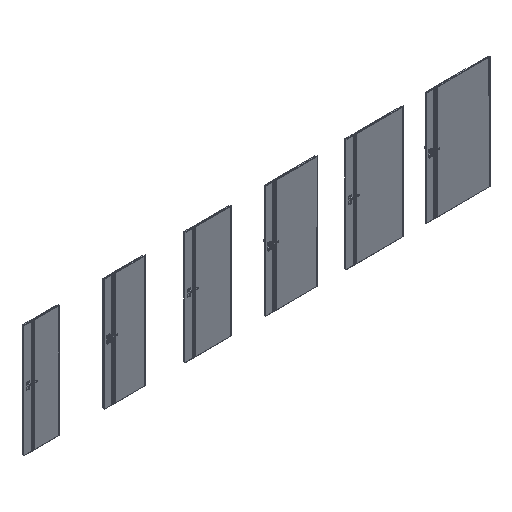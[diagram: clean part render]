
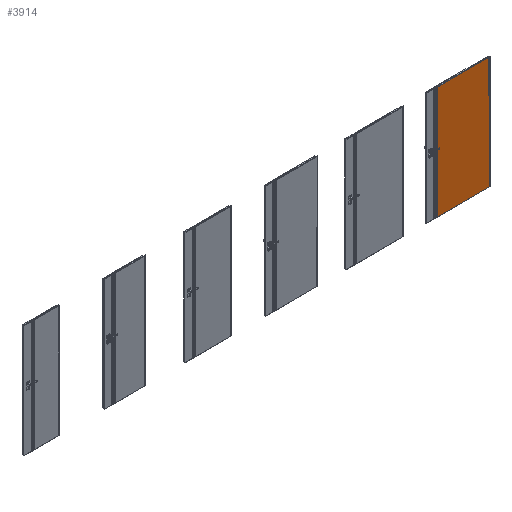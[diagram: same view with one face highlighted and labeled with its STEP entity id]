
A CAD part, isometric view. The second image highlights one B-rep face of the part: STEP entity #3914.
In plain terms, the highlighted planar face has unit normal (0, -1, 0).
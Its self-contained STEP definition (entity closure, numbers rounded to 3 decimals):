
#2504=FACE_OUTER_BOUND('',#7076,.T.);
#3914=ADVANCED_FACE('',(#2504),#4990,.F.);
#4990=PLANE('',#24803);
#7076=EDGE_LOOP('',(#11847,#11848,#11849,#11850));
#11847=ORIENTED_EDGE('',*,*,#18163,.F.);
#11848=ORIENTED_EDGE('',*,*,#18164,.T.);
#11849=ORIENTED_EDGE('',*,*,#18165,.F.);
#11850=ORIENTED_EDGE('',*,*,#18159,.F.);
#15381=VERTEX_POINT('',#40893);
#15382=VERTEX_POINT('',#40895);
#15385=VERTEX_POINT('',#40903);
#15386=VERTEX_POINT('',#40905);
#18159=EDGE_CURVE('',#15381,#15382,#20757,.T.);
#18163=EDGE_CURVE('',#15385,#15381,#20761,.T.);
#18164=EDGE_CURVE('',#15385,#15386,#20762,.T.);
#18165=EDGE_CURVE('',#15382,#15386,#20763,.T.);
#20757=LINE('',#40894,#22905);
#20761=LINE('',#40902,#22909);
#20762=LINE('',#40904,#22910);
#20763=LINE('',#40906,#22911);
#22905=VECTOR('',#29500,1.);
#22909=VECTOR('',#29506,1.);
#22910=VECTOR('',#29507,1.);
#22911=VECTOR('',#29508,1.);
#24803=AXIS2_PLACEMENT_3D('',#40907,#29509,#29510);
#29500=DIRECTION('',(1.,0.,0.));
#29506=DIRECTION('',(0.,0.,1.));
#29507=DIRECTION('',(1.,0.,0.));
#29508=DIRECTION('',(0.,0.,-1.));
#29509=DIRECTION('',(0.,1.,0.));
#29510=DIRECTION('',(-1.,0.,0.));
#40893=CARTESIAN_POINT('',(7118.,-39.3,2030.));
#40894=CARTESIAN_POINT('',(7178.,-39.3,2030.));
#40895=CARTESIAN_POINT('',(8072.,-39.3,2030.));
#40902=CARTESIAN_POINT('',(7118.,-39.3,2030.));
#40903=CARTESIAN_POINT('',(7118.,-39.3,2.));
#40904=CARTESIAN_POINT('',(7178.,-39.3,2.));
#40905=CARTESIAN_POINT('',(8072.,-39.3,2.));
#40906=CARTESIAN_POINT('',(8072.,-39.3,2030.));
#40907=CARTESIAN_POINT('',(7178.,-39.3,2030.));
